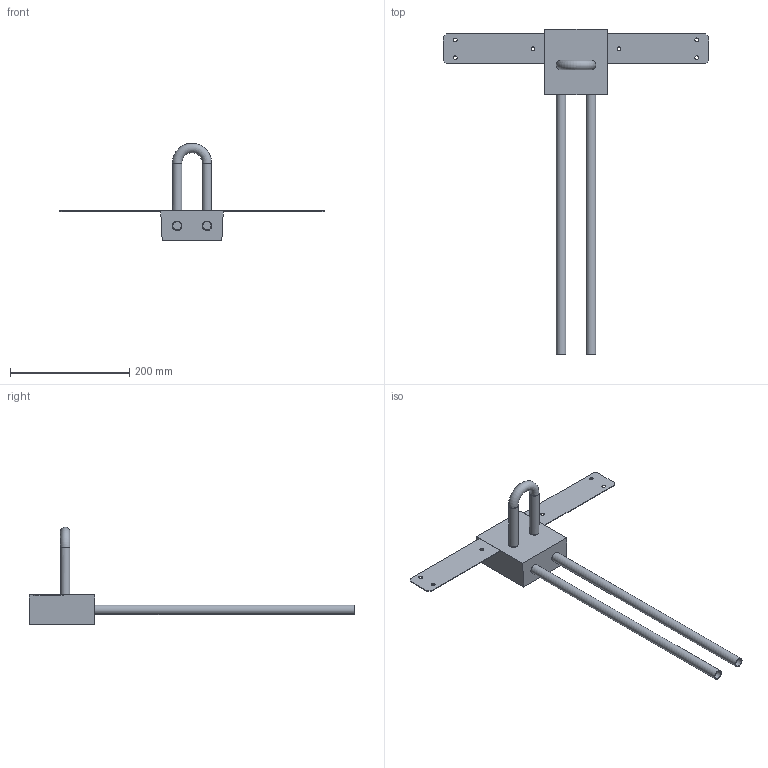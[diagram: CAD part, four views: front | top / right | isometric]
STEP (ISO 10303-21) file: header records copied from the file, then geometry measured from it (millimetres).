
FILE_DESCRIPTION(/* description */ (''),/* implementation_level */ '2;1');
FILE_NAME(/* name */ '\\LG50011\SANHA_Legnica\Engineering\Public\PROJEKTY\SANHA-BOX_Support_BiR\002-Rysunki_Boxów\25-HK-T-bleich\Zespół-325HKM16-Bleich.stp',/* time_stamp */ '2018-11-05T14:31:42+01:00',/* author */ ('gomulka'),/* organization */ (''),/* preprocessor_version */ 'ST-DEVELOPER v16.13',/* originating_system */ 'Autodesk Inventor 2018',/* authorisation */ '');
FILE_SCHEMA (('AUTOMOTIVE_DESIGN { 1 0 10303 214 3 1 1 }'));
Length unit declared in the file: millimetre
Products named in the file (5): Zespół-325HKM16-Bleich; 325HKM16; Rura16x2-kolano; Rura_16x2; SB1X015
Assembly tree (6 placements, depth 2):
  Zespół-325HKM16-Bleich
    325HKM16
    Rura16x2-kolano
    Rura_16x2  x2
    SB1X015  x2
Bounding box: 444.99 x 545.82 x 163.54 mm (x, y, z)
Volume: 630898 mm3; surface area: 197473.4 mm2
Topology: 6 solids, 6 shells, 56 faces, 124 edges, 84 vertices
Faces by surface type: plane 32, cylinder 22, torus 2
Full cylindrical faces by diameter (mm): 6.2 x6, 14 x4, 16 x8
Entity records: 1364 total; most frequent: CARTESIAN_POINT 274, DIRECTION 210, ORIENTED_EDGE 144, AXIS2_PLACEMENT_3D 90, EDGE_CURVE 72, EDGE_LOOP 70, VERTEX_POINT 58, FACE_OUTER_BOUND 41
